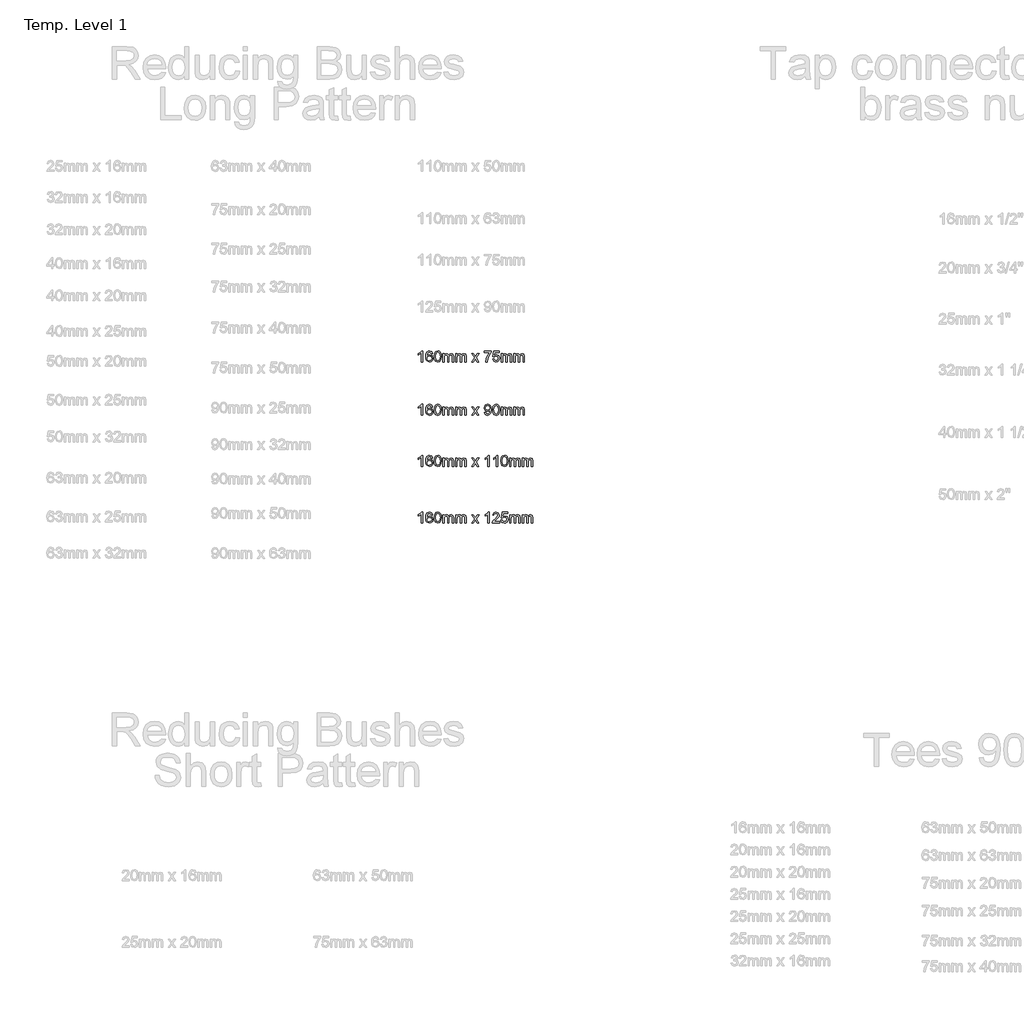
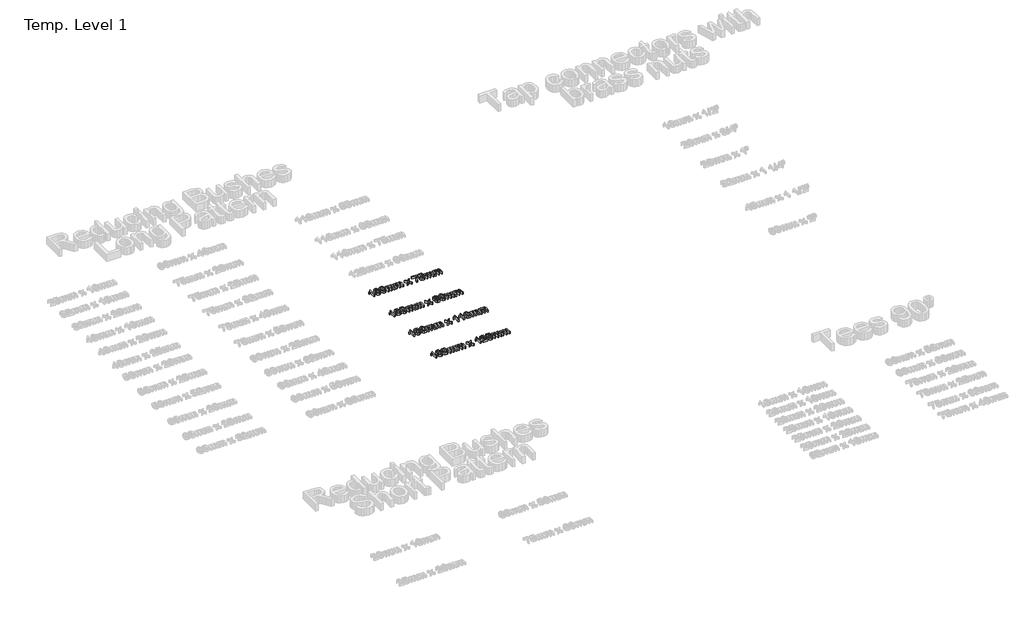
# One storey, part 46 of 62: 4 proxies.
"""IFC4 building model written with IfcOpenShell, lengths in millimetres."""

from ifc_helpers import new_model, si_unit, origin, origin_with_axes, place, context, project, spatial, polyline, outline, extrude, element, save

model = new_model("IFC4")

# Units and contexts
model_context = context("Model", 3, world=origin())
ifc_project = project(units=[si_unit("LENGTHUNIT", "METRE", prefix="MILLI")], contexts=[model_context])

# Site, building, storey
site = spatial("IfcSite", under=ifc_project)
building = spatial("IfcBuilding", under=site)
storey = spatial("IfcBuildingStorey", under=building, Name="Temp. Level 1", Elevation=0.0)

# Proxies
placement = place(None, origin())
element("IfcBuildingElementProxy", 1, Name="50mm Arial", ObjectType="50mm Arial", at=placement, inside=storey, context=model_context, shape_type="SweptSolid", body=[
    extrude(outline(polyline([(25028.6101109, -5250.5242041), (25022.4562647, -5250.5242041), (25022.4562647, -5212.1588195), (25016.6269378, -5216.3114637), (25010.1485724, -5219.4184349), (25010.1485724, -5213.6011272), (25019.1690051, -5207.8439157), (25024.6437647, -5201.2934349), (25028.6101109, -5201.2934349), (25028.6101109, -5250.5242041)])), origin_with_axes(), (0.0, 0.0, 1.0), 15.0),
    extrude(outline(polyline([(25074.763957, -5214.370358), (25068.6101109, -5215.1395887), (25066.2783801, -5210.0073772), (25060.1125147, -5207.447281), (25054.5596301, -5208.9376657), (25050.3589089, -5214.5326176), (25048.6101109, -5225.5001657), (25054.0367935, -5220.5903099), (25060.7615532, -5218.9857426), (25071.2182839, -5223.3727618), (25075.5331878, -5234.7068964), (25073.5019378, -5243.198483), (25067.9129955, -5249.2080983), (25059.8480916, -5251.2934349), (25047.3060243, -5245.7645887), (25043.6687046, -5238.4448772), (25042.4562647, -5227.5434349), (25043.8024185, -5215.2868243), (25047.8408801, -5206.9064157), (25053.3547022, -5202.6966801), (25060.4971301, -5201.2934349), (25070.2206878, -5204.7669926), (25074.763957, -5214.370358)]), holes=[polyline([(25048.6101109, -5234.6107426), (25050.0343897, -5239.9412714), (25053.8204474, -5243.8114637), (25059.3673224, -5245.1395887), (25066.6209282, -5242.3871849), (25069.3793416, -5234.9112233), (25066.6569859, -5227.7537714), (25059.1149185, -5225.1395887), (25051.6690051, -5227.7537714), (25048.6101109, -5234.6107426)])]), origin_with_axes(), (0.0, 0.0, 1.0), 15.0),
    extrude(outline(polyline([(25080.9178032, -5226.3054541), (25082.7266974, -5212.1407907), (25088.0992935, -5203.9737233), (25097.0716493, -5201.2934349), (25104.2591493, -5202.8799733), (25109.2230916, -5207.4532907), (25112.107707, -5214.7369445), (25113.2254955, -5226.3054541), (25111.4346301, -5240.4100214), (25106.0800628, -5248.5951176), (25097.0716493, -5251.2934349), (25085.8216493, -5246.6059349), (25082.1437647, -5238.2796128), (25080.9178032, -5226.3054541)]), holes=[polyline([(25087.0716493, -5226.2934349), (25089.9562647, -5241.5758868), (25097.0716493, -5245.1395887), (25104.1870339, -5241.5638676), (25107.0716493, -5226.2934349), (25104.2831878, -5211.1852618), (25096.9995339, -5207.447281), (25090.0524185, -5210.7405503), (25087.0716493, -5226.2934349)])]), origin_with_axes(), (0.0, 0.0, 1.0), 15.0),
    extrude(outline(polyline([(25120.1485724, -5250.5242041), (25120.1485724, -5214.370358), (25126.3024185, -5214.370358), (25126.3024185, -5220.3198772), (25130.5331878, -5215.4460791), (25136.5548224, -5213.6011272), (25142.7206878, -5215.4821368), (25146.1101109, -5220.7525695), (25150.9117935, -5215.3889878), (25156.9754955, -5213.6011272), (25165.0223705, -5216.5758868), (25167.8408801, -5225.7405503), (25167.8408801, -5250.5242041), (25161.6870339, -5250.5242041), (25161.6870339, -5228.384781), (25161.1161205, -5223.2465599), (25159.0488128, -5220.7165118), (25155.5331878, -5219.7549733), (25149.4815051, -5222.2189157), (25147.0716493, -5230.1155503), (25147.0716493, -5250.5242041), (25140.9178032, -5250.5242041), (25140.9178032, -5227.6996849), (25139.4935243, -5221.7381464), (25134.8240532, -5219.7549733), (25130.2687647, -5221.0770887), (25127.2399185, -5224.947281), (25126.3024185, -5232.291031), (25126.3024185, -5250.5242041), (25120.1485724, -5250.5242041)])), origin_with_axes(), (0.0, 0.0, 1.0), 15.0),
    extrude(outline(polyline([(25177.0716493, -5250.5242041), (25177.0716493, -5214.370358), (25183.2254955, -5214.370358), (25183.2254955, -5220.3198772), (25187.4562647, -5215.4460791), (25193.4778993, -5213.6011272), (25199.6437647, -5215.4821368), (25203.0331878, -5220.7525695), (25207.8348705, -5215.3889878), (25213.8985724, -5213.6011272), (25221.9454474, -5216.5758868), (25224.763957, -5225.7405503), (25224.763957, -5250.5242041), (25218.6101109, -5250.5242041), (25218.6101109, -5228.384781), (25218.0391974, -5223.2465599), (25215.9718897, -5220.7165118), (25212.4562647, -5219.7549733), (25206.404582, -5222.2189157), (25203.9947262, -5230.1155503), (25203.9947262, -5250.5242041), (25197.8408801, -5250.5242041), (25197.8408801, -5227.6996849), (25196.4166012, -5221.7381464), (25191.7471301, -5219.7549733), (25187.1918416, -5221.0770887), (25184.1629955, -5224.947281), (25183.2254955, -5232.291031), (25183.2254955, -5250.5242041), (25177.0716493, -5250.5242041)])), origin_with_axes(), (0.0, 0.0, 1.0), 15.0),
    extrude(outline(polyline([(25249.3793416, -5250.5242041), (25262.5283801, -5232.3511272), (25250.1485724, -5214.370358), (25257.5524185, -5214.370358), (25263.5259762, -5223.0242041), (25266.3144378, -5227.1107426), (25268.7303032, -5223.7693964), (25275.5331878, -5214.370358), (25282.9370339, -5214.370358), (25269.9322262, -5232.3511272), (25282.4562647, -5250.5242041), (25275.0524185, -5250.5242041), (25267.5163609, -5239.5987233), (25266.1341493, -5237.603531), (25256.7831878, -5250.5242041), (25249.3793416, -5250.5242041)])), origin_with_axes(), (0.0, 0.0, 1.0), 15.0),
    extrude(outline(polyline([(25305.5331878, -5208.2165118), (25305.5331878, -5202.0626657), (25337.8408801, -5202.0626657), (25337.8408801, -5207.0386272), (25328.6762166, -5220.2778099), (25321.6629955, -5237.1468003), (25319.3793416, -5250.5242041), (25313.2254955, -5250.5242041), (25315.6714089, -5236.6419926), (25322.3841493, -5220.9508868), (25331.6870339, -5208.2165118), (25305.5331878, -5208.2165118)])), origin_with_axes(), (0.0, 0.0, 1.0), 15.0),
    extrude(outline(polyline([(25343.2254955, -5237.447281), (25349.3793416, -5236.6780503), (25352.4803032, -5243.0181945), (25358.9105916, -5245.1395887), (25366.6269378, -5242.1888676), (25369.3793416, -5234.3583387), (25366.8012166, -5227.0506464), (25359.0067455, -5224.370358), (25353.6041012, -5225.4400695), (25350.1485724, -5228.2165118), (25343.9947262, -5227.447281), (25349.3793416, -5202.0626657), (25373.2254955, -5202.0626657), (25373.2254955, -5208.2165118), (25354.3553032, -5208.2165118), (25351.7230916, -5221.7742041), (25360.7254955, -5218.2165118), (25371.248332, -5222.6275695), (25375.5331878, -5233.9737233), (25371.6750147, -5245.3919926), (25366.1341493, -5249.8180743), (25358.8865532, -5251.2934349), (25348.0271782, -5247.5013676), (25343.2254955, -5237.447281)])), origin_with_axes(), (0.0, 0.0, 1.0), 15.0),
    extrude(outline(polyline([(25382.4562647, -5250.5242041), (25382.4562647, -5214.370358), (25388.6101109, -5214.370358), (25388.6101109, -5220.3198772), (25392.8408801, -5215.4460791), (25398.8625147, -5213.6011272), (25405.0283801, -5215.4821368), (25408.4178032, -5220.7525695), (25413.2194859, -5215.3889878), (25419.2831878, -5213.6011272), (25427.3300628, -5216.5758868), (25430.1485724, -5225.7405503), (25430.1485724, -5250.5242041), (25423.9947262, -5250.5242041), (25423.9947262, -5228.384781), (25423.4238128, -5223.2465599), (25421.3565051, -5220.7165118), (25417.8408801, -5219.7549733), (25411.7891974, -5222.2189157), (25409.3793416, -5230.1155503), (25409.3793416, -5250.5242041), (25403.2254955, -5250.5242041), (25403.2254955, -5227.6996849), (25401.8012166, -5221.7381464), (25397.1317455, -5219.7549733), (25392.576457, -5221.0770887), (25389.5476109, -5224.947281), (25388.6101109, -5232.291031), (25388.6101109, -5250.5242041), (25382.4562647, -5250.5242041)])), origin_with_axes(), (0.0, 0.0, 1.0), 15.0),
    extrude(outline(polyline([(25439.3793416, -5250.5242041), (25439.3793416, -5214.370358), (25445.5331878, -5214.370358), (25445.5331878, -5220.3198772), (25449.763957, -5215.4460791), (25455.7855916, -5213.6011272), (25461.951457, -5215.4821368), (25465.3408801, -5220.7525695), (25470.1425628, -5215.3889878), (25476.2062647, -5213.6011272), (25484.2531397, -5216.5758868), (25487.0716493, -5225.7405503), (25487.0716493, -5250.5242041), (25480.9178032, -5250.5242041), (25480.9178032, -5228.384781), (25480.3468897, -5223.2465599), (25478.279582, -5220.7165118), (25474.763957, -5219.7549733), (25468.7122743, -5222.2189157), (25466.3024185, -5230.1155503), (25466.3024185, -5250.5242041), (25460.1485724, -5250.5242041), (25460.1485724, -5227.6996849), (25458.7242935, -5221.7381464), (25454.0548224, -5219.7549733), (25449.4995339, -5221.0770887), (25446.4706878, -5224.947281), (25445.5331878, -5232.291031), (25445.5331878, -5250.5242041), (25439.3793416, -5250.5242041)])), origin_with_axes(), (0.0, 0.0, 1.0), 15.0),
])
element("IfcBuildingElementProxy", 2, Name="50mm Arial", ObjectType="50mm Arial", at=placement, inside=storey, context=model_context, shape_type="SweptSolid", body=[
    extrude(outline(polyline([(25028.6101109, -5490.5242041), (25022.4562647, -5490.5242041), (25022.4562647, -5452.1588195), (25016.6269378, -5456.3114637), (25010.1485724, -5459.4184349), (25010.1485724, -5453.6011272), (25019.1690051, -5447.8439157), (25024.6437647, -5441.2934349), (25028.6101109, -5441.2934349), (25028.6101109, -5490.5242041)])), origin_with_axes(), (0.0, 0.0, 1.0), 15.0),
    extrude(outline(polyline([(25074.763957, -5454.370358), (25068.6101109, -5455.1395887), (25066.2783801, -5450.0073772), (25060.1125147, -5447.447281), (25054.5596301, -5448.9376657), (25050.3589089, -5454.5326176), (25048.6101109, -5465.5001657), (25054.0367935, -5460.5903099), (25060.7615532, -5458.9857426), (25071.2182839, -5463.3727618), (25075.5331878, -5474.7068964), (25073.5019378, -5483.198483), (25067.9129955, -5489.2080983), (25059.8480916, -5491.2934349), (25047.3060243, -5485.7645887), (25043.6687046, -5478.4448772), (25042.4562647, -5467.5434349), (25043.8024185, -5455.2868243), (25047.8408801, -5446.9064157), (25053.3547022, -5442.6966801), (25060.4971301, -5441.2934349), (25070.2206878, -5444.7669926), (25074.763957, -5454.370358)]), holes=[polyline([(25048.6101109, -5474.6107426), (25050.0343897, -5479.9412714), (25053.8204474, -5483.8114637), (25059.3673224, -5485.1395887), (25066.6209282, -5482.3871849), (25069.3793416, -5474.9112233), (25066.6569859, -5467.7537714), (25059.1149185, -5465.1395887), (25051.6690051, -5467.7537714), (25048.6101109, -5474.6107426)])]), origin_with_axes(), (0.0, 0.0, 1.0), 15.0),
    extrude(outline(polyline([(25080.9178032, -5466.3054541), (25082.7266974, -5452.1407907), (25088.0992935, -5443.9737233), (25097.0716493, -5441.2934349), (25104.2591493, -5442.8799733), (25109.2230916, -5447.4532907), (25112.107707, -5454.7369445), (25113.2254955, -5466.3054541), (25111.4346301, -5480.4100214), (25106.0800628, -5488.5951176), (25097.0716493, -5491.2934349), (25085.8216493, -5486.6059349), (25082.1437647, -5478.2796128), (25080.9178032, -5466.3054541)]), holes=[polyline([(25087.0716493, -5466.2934349), (25089.9562647, -5481.5758868), (25097.0716493, -5485.1395887), (25104.1870339, -5481.5638676), (25107.0716493, -5466.2934349), (25104.2831878, -5451.1852618), (25096.9995339, -5447.447281), (25090.0524185, -5450.7405503), (25087.0716493, -5466.2934349)])]), origin_with_axes(), (0.0, 0.0, 1.0), 15.0),
    extrude(outline(polyline([(25120.1485724, -5490.5242041), (25120.1485724, -5454.370358), (25126.3024185, -5454.370358), (25126.3024185, -5460.3198772), (25130.5331878, -5455.4460791), (25136.5548224, -5453.6011272), (25142.7206878, -5455.4821368), (25146.1101109, -5460.7525695), (25150.9117935, -5455.3889878), (25156.9754955, -5453.6011272), (25165.0223705, -5456.5758868), (25167.8408801, -5465.7405503), (25167.8408801, -5490.5242041), (25161.6870339, -5490.5242041), (25161.6870339, -5468.384781), (25161.1161205, -5463.2465599), (25159.0488128, -5460.7165118), (25155.5331878, -5459.7549733), (25149.4815051, -5462.2189157), (25147.0716493, -5470.1155503), (25147.0716493, -5490.5242041), (25140.9178032, -5490.5242041), (25140.9178032, -5467.6996849), (25139.4935243, -5461.7381464), (25134.8240532, -5459.7549733), (25130.2687647, -5461.0770887), (25127.2399185, -5464.947281), (25126.3024185, -5472.291031), (25126.3024185, -5490.5242041), (25120.1485724, -5490.5242041)])), origin_with_axes(), (0.0, 0.0, 1.0), 15.0),
    extrude(outline(polyline([(25177.0716493, -5490.5242041), (25177.0716493, -5454.370358), (25183.2254955, -5454.370358), (25183.2254955, -5460.3198772), (25187.4562647, -5455.4460791), (25193.4778993, -5453.6011272), (25199.6437647, -5455.4821368), (25203.0331878, -5460.7525695), (25207.8348705, -5455.3889878), (25213.8985724, -5453.6011272), (25221.9454474, -5456.5758868), (25224.763957, -5465.7405503), (25224.763957, -5490.5242041), (25218.6101109, -5490.5242041), (25218.6101109, -5468.384781), (25218.0391974, -5463.2465599), (25215.9718897, -5460.7165118), (25212.4562647, -5459.7549733), (25206.404582, -5462.2189157), (25203.9947262, -5470.1155503), (25203.9947262, -5490.5242041), (25197.8408801, -5490.5242041), (25197.8408801, -5467.6996849), (25196.4166012, -5461.7381464), (25191.7471301, -5459.7549733), (25187.1918416, -5461.0770887), (25184.1629955, -5464.947281), (25183.2254955, -5472.291031), (25183.2254955, -5490.5242041), (25177.0716493, -5490.5242041)])), origin_with_axes(), (0.0, 0.0, 1.0), 15.0),
    extrude(outline(polyline([(25249.3793416, -5490.5242041), (25262.5283801, -5472.3511272), (25250.1485724, -5454.370358), (25257.5524185, -5454.370358), (25263.5259762, -5463.0242041), (25266.3144378, -5467.1107426), (25268.7303032, -5463.7693964), (25275.5331878, -5454.370358), (25282.9370339, -5454.370358), (25269.9322262, -5472.3511272), (25282.4562647, -5490.5242041), (25275.0524185, -5490.5242041), (25267.5163609, -5479.5987233), (25266.1341493, -5477.603531), (25256.7831878, -5490.5242041), (25249.3793416, -5490.5242041)])), origin_with_axes(), (0.0, 0.0, 1.0), 15.0),
    extrude(outline(polyline([(25306.3024185, -5478.2165118), (25312.4562647, -5477.447281), (25315.2206878, -5483.3186753), (25320.4610724, -5485.1395887), (25325.4430435, -5483.9677137), (25328.8204474, -5480.8367041), (25330.8336685, -5475.4881464), (25331.7230916, -5468.3487233), (25326.7651589, -5471.8102618), (25320.0163609, -5473.6011272), (25309.7339089, -5469.2261272), (25305.5331878, -5457.6996849), (25309.9382359, -5445.8006464), (25320.9778993, -5441.2934349), (25329.7459282, -5443.8655503), (25335.779582, -5451.197281), (25337.8408801, -5464.9713195), (25335.7855916, -5479.917233), (25329.6738128, -5488.384781), (25320.1726109, -5491.2934349), (25310.7134762, -5487.8619445), (25306.3024185, -5478.2165118)]), holes=[polyline([(25331.6870339, -5457.5554541), (25329.0307839, -5450.1756464), (25321.9754955, -5447.447281), (25314.5716493, -5450.385983), (25311.6870339, -5458.0001657), (25314.4153993, -5464.8210791), (25321.8072262, -5467.447281), (25328.904582, -5464.8210791), (25331.6870339, -5457.5554541)])]), origin_with_axes(), (0.0, 0.0, 1.0), 15.0),
    extrude(outline(polyline([(25343.2254955, -5466.3054541), (25345.0343897, -5452.1407907), (25350.4069859, -5443.9737233), (25359.3793416, -5441.2934349), (25366.5668416, -5442.8799733), (25371.5307839, -5447.4532907), (25374.4153993, -5454.7369445), (25375.5331878, -5466.3054541), (25373.7423224, -5480.4100214), (25368.3877551, -5488.5951176), (25359.3793416, -5491.2934349), (25348.1293416, -5486.6059349), (25344.451457, -5478.2796128), (25343.2254955, -5466.3054541)]), holes=[polyline([(25349.3793416, -5466.2934349), (25352.263957, -5481.5758868), (25359.3793416, -5485.1395887), (25366.4947262, -5481.5638676), (25369.3793416, -5466.2934349), (25366.5908801, -5451.1852618), (25359.3072262, -5447.447281), (25352.3601109, -5450.7405503), (25349.3793416, -5466.2934349)])]), origin_with_axes(), (0.0, 0.0, 1.0), 15.0),
    extrude(outline(polyline([(25382.4562647, -5490.5242041), (25382.4562647, -5454.370358), (25388.6101109, -5454.370358), (25388.6101109, -5460.3198772), (25392.8408801, -5455.4460791), (25398.8625147, -5453.6011272), (25405.0283801, -5455.4821368), (25408.4178032, -5460.7525695), (25413.2194859, -5455.3889878), (25419.2831878, -5453.6011272), (25427.3300628, -5456.5758868), (25430.1485724, -5465.7405503), (25430.1485724, -5490.5242041), (25423.9947262, -5490.5242041), (25423.9947262, -5468.384781), (25423.4238128, -5463.2465599), (25421.3565051, -5460.7165118), (25417.8408801, -5459.7549733), (25411.7891974, -5462.2189157), (25409.3793416, -5470.1155503), (25409.3793416, -5490.5242041), (25403.2254955, -5490.5242041), (25403.2254955, -5467.6996849), (25401.8012166, -5461.7381464), (25397.1317455, -5459.7549733), (25392.576457, -5461.0770887), (25389.5476109, -5464.947281), (25388.6101109, -5472.291031), (25388.6101109, -5490.5242041), (25382.4562647, -5490.5242041)])), origin_with_axes(), (0.0, 0.0, 1.0), 15.0),
    extrude(outline(polyline([(25439.3793416, -5490.5242041), (25439.3793416, -5454.370358), (25445.5331878, -5454.370358), (25445.5331878, -5460.3198772), (25449.763957, -5455.4460791), (25455.7855916, -5453.6011272), (25461.951457, -5455.4821368), (25465.3408801, -5460.7525695), (25470.1425628, -5455.3889878), (25476.2062647, -5453.6011272), (25484.2531397, -5456.5758868), (25487.0716493, -5465.7405503), (25487.0716493, -5490.5242041), (25480.9178032, -5490.5242041), (25480.9178032, -5468.384781), (25480.3468897, -5463.2465599), (25478.279582, -5460.7165118), (25474.763957, -5459.7549733), (25468.7122743, -5462.2189157), (25466.3024185, -5470.1155503), (25466.3024185, -5490.5242041), (25460.1485724, -5490.5242041), (25460.1485724, -5467.6996849), (25458.7242935, -5461.7381464), (25454.0548224, -5459.7549733), (25449.4995339, -5461.0770887), (25446.4706878, -5464.947281), (25445.5331878, -5472.291031), (25445.5331878, -5490.5242041), (25439.3793416, -5490.5242041)])), origin_with_axes(), (0.0, 0.0, 1.0), 15.0),
])
element("IfcBuildingElementProxy", 3, Name="50mm Arial", ObjectType="50mm Arial", at=placement, inside=storey, context=model_context, shape_type="SweptSolid", body=[
    extrude(outline(polyline([(25028.6101109, -5720.5242041), (25022.4562647, -5720.5242041), (25022.4562647, -5682.1588195), (25016.6269378, -5686.3114637), (25010.1485724, -5689.4184349), (25010.1485724, -5683.6011272), (25019.1690051, -5677.8439157), (25024.6437647, -5671.2934349), (25028.6101109, -5671.2934349), (25028.6101109, -5720.5242041)])), origin_with_axes(), (0.0, 0.0, 1.0), 15.0),
    extrude(outline(polyline([(25074.763957, -5684.370358), (25068.6101109, -5685.1395887), (25066.2783801, -5680.0073772), (25060.1125147, -5677.447281), (25054.5596301, -5678.9376657), (25050.3589089, -5684.5326176), (25048.6101109, -5695.5001657), (25054.0367935, -5690.5903099), (25060.7615532, -5688.9857426), (25071.2182839, -5693.3727618), (25075.5331878, -5704.7068964), (25073.5019378, -5713.198483), (25067.9129955, -5719.2080983), (25059.8480916, -5721.2934349), (25047.3060243, -5715.7645887), (25043.6687046, -5708.4448772), (25042.4562647, -5697.5434349), (25043.8024185, -5685.2868243), (25047.8408801, -5676.9064157), (25053.3547022, -5672.6966801), (25060.4971301, -5671.2934349), (25070.2206878, -5674.7669926), (25074.763957, -5684.370358)]), holes=[polyline([(25048.6101109, -5704.6107426), (25050.0343897, -5709.9412714), (25053.8204474, -5713.8114637), (25059.3673224, -5715.1395887), (25066.6209282, -5712.3871849), (25069.3793416, -5704.9112233), (25066.6569859, -5697.7537714), (25059.1149185, -5695.1395887), (25051.6690051, -5697.7537714), (25048.6101109, -5704.6107426)])]), origin_with_axes(), (0.0, 0.0, 1.0), 15.0),
    extrude(outline(polyline([(25080.9178032, -5696.3054541), (25082.7266974, -5682.1407907), (25088.0992935, -5673.9737233), (25097.0716493, -5671.2934349), (25104.2591493, -5672.8799733), (25109.2230916, -5677.4532907), (25112.107707, -5684.7369445), (25113.2254955, -5696.3054541), (25111.4346301, -5710.4100214), (25106.0800628, -5718.5951176), (25097.0716493, -5721.2934349), (25085.8216493, -5716.6059349), (25082.1437647, -5708.2796128), (25080.9178032, -5696.3054541)]), holes=[polyline([(25087.0716493, -5696.2934349), (25089.9562647, -5711.5758868), (25097.0716493, -5715.1395887), (25104.1870339, -5711.5638676), (25107.0716493, -5696.2934349), (25104.2831878, -5681.1852618), (25096.9995339, -5677.447281), (25090.0524185, -5680.7405503), (25087.0716493, -5696.2934349)])]), origin_with_axes(), (0.0, 0.0, 1.0), 15.0),
    extrude(outline(polyline([(25120.1485724, -5720.5242041), (25120.1485724, -5684.370358), (25126.3024185, -5684.370358), (25126.3024185, -5690.3198772), (25130.5331878, -5685.4460791), (25136.5548224, -5683.6011272), (25142.7206878, -5685.4821368), (25146.1101109, -5690.7525695), (25150.9117935, -5685.3889878), (25156.9754955, -5683.6011272), (25165.0223705, -5686.5758868), (25167.8408801, -5695.7405503), (25167.8408801, -5720.5242041), (25161.6870339, -5720.5242041), (25161.6870339, -5698.384781), (25161.1161205, -5693.2465599), (25159.0488128, -5690.7165118), (25155.5331878, -5689.7549733), (25149.4815051, -5692.2189157), (25147.0716493, -5700.1155503), (25147.0716493, -5720.5242041), (25140.9178032, -5720.5242041), (25140.9178032, -5697.6996849), (25139.4935243, -5691.7381464), (25134.8240532, -5689.7549733), (25130.2687647, -5691.0770887), (25127.2399185, -5694.947281), (25126.3024185, -5702.291031), (25126.3024185, -5720.5242041), (25120.1485724, -5720.5242041)])), origin_with_axes(), (0.0, 0.0, 1.0), 15.0),
    extrude(outline(polyline([(25177.0716493, -5720.5242041), (25177.0716493, -5684.370358), (25183.2254955, -5684.370358), (25183.2254955, -5690.3198772), (25187.4562647, -5685.4460791), (25193.4778993, -5683.6011272), (25199.6437647, -5685.4821368), (25203.0331878, -5690.7525695), (25207.8348705, -5685.3889878), (25213.8985724, -5683.6011272), (25221.9454474, -5686.5758868), (25224.763957, -5695.7405503), (25224.763957, -5720.5242041), (25218.6101109, -5720.5242041), (25218.6101109, -5698.384781), (25218.0391974, -5693.2465599), (25215.9718897, -5690.7165118), (25212.4562647, -5689.7549733), (25206.404582, -5692.2189157), (25203.9947262, -5700.1155503), (25203.9947262, -5720.5242041), (25197.8408801, -5720.5242041), (25197.8408801, -5697.6996849), (25196.4166012, -5691.7381464), (25191.7471301, -5689.7549733), (25187.1918416, -5691.0770887), (25184.1629955, -5694.947281), (25183.2254955, -5702.291031), (25183.2254955, -5720.5242041), (25177.0716493, -5720.5242041)])), origin_with_axes(), (0.0, 0.0, 1.0), 15.0),
    extrude(outline(polyline([(25249.3793416, -5720.5242041), (25262.5283801, -5702.3511272), (25250.1485724, -5684.370358), (25257.5524185, -5684.370358), (25263.5259762, -5693.0242041), (25266.3144378, -5697.1107426), (25268.7303032, -5693.7693964), (25275.5331878, -5684.370358), (25282.9370339, -5684.370358), (25269.9322262, -5702.3511272), (25282.4562647, -5720.5242041), (25275.0524185, -5720.5242041), (25267.5163609, -5709.5987233), (25266.1341493, -5707.603531), (25256.7831878, -5720.5242041), (25249.3793416, -5720.5242041)])), origin_with_axes(), (0.0, 0.0, 1.0), 15.0),
    extrude(outline(polyline([(25328.6101109, -5720.5242041), (25322.4562647, -5720.5242041), (25322.4562647, -5682.1588195), (25316.6269378, -5686.3114637), (25310.1485724, -5689.4184349), (25310.1485724, -5683.6011272), (25319.1690051, -5677.8439157), (25324.6437647, -5671.2934349), (25328.6101109, -5671.2934349), (25328.6101109, -5720.5242041)])), origin_with_axes(), (0.0, 0.0, 1.0), 15.0),
    extrude(outline(polyline([(25366.3024185, -5720.5242041), (25360.1485724, -5720.5242041), (25360.1485724, -5682.1588195), (25354.3192455, -5686.3114637), (25347.8408801, -5689.4184349), (25347.8408801, -5683.6011272), (25356.8613128, -5677.8439157), (25362.3360724, -5671.2934349), (25366.3024185, -5671.2934349), (25366.3024185, -5720.5242041)])), origin_with_axes(), (0.0, 0.0, 1.0), 15.0),
    extrude(outline(polyline([(25380.9178032, -5696.3054541), (25382.7266974, -5682.1407907), (25388.0992935, -5673.9737233), (25397.0716493, -5671.2934349), (25404.2591493, -5672.8799733), (25409.2230916, -5677.4532907), (25412.107707, -5684.7369445), (25413.2254955, -5696.3054541), (25411.4346301, -5710.4100214), (25406.0800628, -5718.5951176), (25397.0716493, -5721.2934349), (25385.8216493, -5716.6059349), (25382.1437647, -5708.2796128), (25380.9178032, -5696.3054541)]), holes=[polyline([(25387.0716493, -5696.2934349), (25389.9562647, -5711.5758868), (25397.0716493, -5715.1395887), (25404.1870339, -5711.5638676), (25407.0716493, -5696.2934349), (25404.2831878, -5681.1852618), (25396.9995339, -5677.447281), (25390.0524185, -5680.7405503), (25387.0716493, -5696.2934349)])]), origin_with_axes(), (0.0, 0.0, 1.0), 15.0),
    extrude(outline(polyline([(25420.1485724, -5720.5242041), (25420.1485724, -5684.370358), (25426.3024185, -5684.370358), (25426.3024185, -5690.3198772), (25430.5331878, -5685.4460791), (25436.5548224, -5683.6011272), (25442.7206878, -5685.4821368), (25446.1101109, -5690.7525695), (25450.9117935, -5685.3889878), (25456.9754955, -5683.6011272), (25465.0223705, -5686.5758868), (25467.8408801, -5695.7405503), (25467.8408801, -5720.5242041), (25461.6870339, -5720.5242041), (25461.6870339, -5698.384781), (25461.1161205, -5693.2465599), (25459.0488128, -5690.7165118), (25455.5331878, -5689.7549733), (25449.4815051, -5692.2189157), (25447.0716493, -5700.1155503), (25447.0716493, -5720.5242041), (25440.9178032, -5720.5242041), (25440.9178032, -5697.6996849), (25439.4935243, -5691.7381464), (25434.8240532, -5689.7549733), (25430.2687647, -5691.0770887), (25427.2399185, -5694.947281), (25426.3024185, -5702.291031), (25426.3024185, -5720.5242041), (25420.1485724, -5720.5242041)])), origin_with_axes(), (0.0, 0.0, 1.0), 15.0),
    extrude(outline(polyline([(25477.0716493, -5720.5242041), (25477.0716493, -5684.370358), (25483.2254955, -5684.370358), (25483.2254955, -5690.3198772), (25487.4562647, -5685.4460791), (25493.4778993, -5683.6011272), (25499.6437647, -5685.4821368), (25503.0331878, -5690.7525695), (25507.8348705, -5685.3889878), (25513.8985724, -5683.6011272), (25521.9454474, -5686.5758868), (25524.763957, -5695.7405503), (25524.763957, -5720.5242041), (25518.6101109, -5720.5242041), (25518.6101109, -5698.384781), (25518.0391974, -5693.2465599), (25515.9718897, -5690.7165118), (25512.4562647, -5689.7549733), (25506.404582, -5692.2189157), (25503.9947262, -5700.1155503), (25503.9947262, -5720.5242041), (25497.8408801, -5720.5242041), (25497.8408801, -5697.6996849), (25496.4166012, -5691.7381464), (25491.7471301, -5689.7549733), (25487.1918416, -5691.0770887), (25484.1629955, -5694.947281), (25483.2254955, -5702.291031), (25483.2254955, -5720.5242041), (25477.0716493, -5720.5242041)])), origin_with_axes(), (0.0, 0.0, 1.0), 15.0),
])
element("IfcBuildingElementProxy", 4, Name="50mm Arial", ObjectType="50mm Arial", at=placement, inside=storey, context=model_context, shape_type="SweptSolid", body=[
    extrude(outline(polyline([(25028.6101109, -5975.5242041), (25022.4562647, -5975.5242041), (25022.4562647, -5937.1588195), (25016.6269378, -5941.3114637), (25010.1485724, -5944.4184349), (25010.1485724, -5938.6011272), (25019.1690051, -5932.8439157), (25024.6437647, -5926.2934349), (25028.6101109, -5926.2934349), (25028.6101109, -5975.5242041)])), origin_with_axes(), (0.0, 0.0, 1.0), 15.0),
    extrude(outline(polyline([(25074.763957, -5939.370358), (25068.6101109, -5940.1395887), (25066.2783801, -5935.0073772), (25060.1125147, -5932.447281), (25054.5596301, -5933.9376657), (25050.3589089, -5939.5326176), (25048.6101109, -5950.5001657), (25054.0367935, -5945.5903099), (25060.7615532, -5943.9857426), (25071.2182839, -5948.3727618), (25075.5331878, -5959.7068964), (25073.5019378, -5968.198483), (25067.9129955, -5974.2080983), (25059.8480916, -5976.2934349), (25047.3060243, -5970.7645887), (25043.6687046, -5963.4448772), (25042.4562647, -5952.5434349), (25043.8024185, -5940.2868243), (25047.8408801, -5931.9064157), (25053.3547022, -5927.6966801), (25060.4971301, -5926.2934349), (25070.2206878, -5929.7669926), (25074.763957, -5939.370358)]), holes=[polyline([(25048.6101109, -5959.6107426), (25050.0343897, -5964.9412714), (25053.8204474, -5968.8114637), (25059.3673224, -5970.1395887), (25066.6209282, -5967.3871849), (25069.3793416, -5959.9112233), (25066.6569859, -5952.7537714), (25059.1149185, -5950.1395887), (25051.6690051, -5952.7537714), (25048.6101109, -5959.6107426)])]), origin_with_axes(), (0.0, 0.0, 1.0), 15.0),
    extrude(outline(polyline([(25080.9178032, -5951.3054541), (25082.7266974, -5937.1407907), (25088.0992935, -5928.9737233), (25097.0716493, -5926.2934349), (25104.2591493, -5927.8799733), (25109.2230916, -5932.4532907), (25112.107707, -5939.7369445), (25113.2254955, -5951.3054541), (25111.4346301, -5965.4100214), (25106.0800628, -5973.5951176), (25097.0716493, -5976.2934349), (25085.8216493, -5971.6059349), (25082.1437647, -5963.2796128), (25080.9178032, -5951.3054541)]), holes=[polyline([(25087.0716493, -5951.2934349), (25089.9562647, -5966.5758868), (25097.0716493, -5970.1395887), (25104.1870339, -5966.5638676), (25107.0716493, -5951.2934349), (25104.2831878, -5936.1852618), (25096.9995339, -5932.447281), (25090.0524185, -5935.7405503), (25087.0716493, -5951.2934349)])]), origin_with_axes(), (0.0, 0.0, 1.0), 15.0),
    extrude(outline(polyline([(25120.1485724, -5975.5242041), (25120.1485724, -5939.370358), (25126.3024185, -5939.370358), (25126.3024185, -5945.3198772), (25130.5331878, -5940.4460791), (25136.5548224, -5938.6011272), (25142.7206878, -5940.4821368), (25146.1101109, -5945.7525695), (25150.9117935, -5940.3889878), (25156.9754955, -5938.6011272), (25165.0223705, -5941.5758868), (25167.8408801, -5950.7405503), (25167.8408801, -5975.5242041), (25161.6870339, -5975.5242041), (25161.6870339, -5953.384781), (25161.1161205, -5948.2465599), (25159.0488128, -5945.7165118), (25155.5331878, -5944.7549733), (25149.4815051, -5947.2189157), (25147.0716493, -5955.1155503), (25147.0716493, -5975.5242041), (25140.9178032, -5975.5242041), (25140.9178032, -5952.6996849), (25139.4935243, -5946.7381464), (25134.8240532, -5944.7549733), (25130.2687647, -5946.0770887), (25127.2399185, -5949.947281), (25126.3024185, -5957.291031), (25126.3024185, -5975.5242041), (25120.1485724, -5975.5242041)])), origin_with_axes(), (0.0, 0.0, 1.0), 15.0),
    extrude(outline(polyline([(25177.0716493, -5975.5242041), (25177.0716493, -5939.370358), (25183.2254955, -5939.370358), (25183.2254955, -5945.3198772), (25187.4562647, -5940.4460791), (25193.4778993, -5938.6011272), (25199.6437647, -5940.4821368), (25203.0331878, -5945.7525695), (25207.8348705, -5940.3889878), (25213.8985724, -5938.6011272), (25221.9454474, -5941.5758868), (25224.763957, -5950.7405503), (25224.763957, -5975.5242041), (25218.6101109, -5975.5242041), (25218.6101109, -5953.384781), (25218.0391974, -5948.2465599), (25215.9718897, -5945.7165118), (25212.4562647, -5944.7549733), (25206.404582, -5947.2189157), (25203.9947262, -5955.1155503), (25203.9947262, -5975.5242041), (25197.8408801, -5975.5242041), (25197.8408801, -5952.6996849), (25196.4166012, -5946.7381464), (25191.7471301, -5944.7549733), (25187.1918416, -5946.0770887), (25184.1629955, -5949.947281), (25183.2254955, -5957.291031), (25183.2254955, -5975.5242041), (25177.0716493, -5975.5242041)])), origin_with_axes(), (0.0, 0.0, 1.0), 15.0),
    extrude(outline(polyline([(25249.3793416, -5975.5242041), (25262.5283801, -5957.3511272), (25250.1485724, -5939.370358), (25257.5524185, -5939.370358), (25263.5259762, -5948.0242041), (25266.3144378, -5952.1107426), (25268.7303032, -5948.7693964), (25275.5331878, -5939.370358), (25282.9370339, -5939.370358), (25269.9322262, -5957.3511272), (25282.4562647, -5975.5242041), (25275.0524185, -5975.5242041), (25267.5163609, -5964.5987233), (25266.1341493, -5962.603531), (25256.7831878, -5975.5242041), (25249.3793416, -5975.5242041)])), origin_with_axes(), (0.0, 0.0, 1.0), 15.0),
    extrude(outline(polyline([(25328.6101109, -5975.5242041), (25322.4562647, -5975.5242041), (25322.4562647, -5937.1588195), (25316.6269378, -5941.3114637), (25310.1485724, -5944.4184349), (25310.1485724, -5938.6011272), (25319.1690051, -5932.8439157), (25324.6437647, -5926.2934349), (25328.6101109, -5926.2934349), (25328.6101109, -5975.5242041)])), origin_with_axes(), (0.0, 0.0, 1.0), 15.0),
    extrude(outline(polyline([(25374.763957, -5969.370358), (25374.763957, -5975.5242041), (25342.4562647, -5975.5242041), (25343.1173224, -5971.2814157), (25346.8553032, -5964.7489637), (25354.5596301, -5957.6155503), (25365.1846301, -5947.3631464), (25367.8408801, -5940.3919926), (25365.3348705, -5934.7489637), (25358.7903993, -5932.447281), (25351.9694859, -5934.6948772), (25349.3793416, -5940.9088195), (25343.2254955, -5940.1395887), (25347.9430435, -5929.839108), (25358.9226109, -5926.2934349), (25369.9382359, -5930.2357426), (25373.9947262, -5940.0193964), (25372.9009762, -5945.854733), (25369.2651589, -5951.8883868), (25360.4490532, -5960.3198772), (25353.3697262, -5966.2393483), (25350.5932839, -5969.370358), (25374.763957, -5969.370358)])), origin_with_axes(), (0.0, 0.0, 1.0), 15.0),
    extrude(outline(polyline([(25380.9178032, -5962.447281), (25387.0716493, -5961.6780503), (25390.1726109, -5968.0181945), (25396.6028993, -5970.1395887), (25404.3192455, -5967.1888676), (25407.0716493, -5959.3583387), (25404.4935243, -5952.0506464), (25396.6990532, -5949.370358), (25391.2964089, -5950.4400695), (25387.8408801, -5953.2165118), (25381.6870339, -5952.447281), (25387.0716493, -5927.0626657), (25410.9178032, -5927.0626657), (25410.9178032, -5933.2165118), (25392.0476109, -5933.2165118), (25389.4153993, -5946.7742041), (25398.4178032, -5943.2165118), (25408.9406397, -5947.6275695), (25413.2254955, -5958.9737233), (25409.3673224, -5970.3919926), (25403.826457, -5974.8180743), (25396.5788609, -5976.2934349), (25385.7194859, -5972.5013676), (25380.9178032, -5962.447281)])), origin_with_axes(), (0.0, 0.0, 1.0), 15.0),
    extrude(outline(polyline([(25420.1485724, -5975.5242041), (25420.1485724, -5939.370358), (25426.3024185, -5939.370358), (25426.3024185, -5945.3198772), (25430.5331878, -5940.4460791), (25436.5548224, -5938.6011272), (25442.7206878, -5940.4821368), (25446.1101109, -5945.7525695), (25450.9117935, -5940.3889878), (25456.9754955, -5938.6011272), (25465.0223705, -5941.5758868), (25467.8408801, -5950.7405503), (25467.8408801, -5975.5242041), (25461.6870339, -5975.5242041), (25461.6870339, -5953.384781), (25461.1161205, -5948.2465599), (25459.0488128, -5945.7165118), (25455.5331878, -5944.7549733), (25449.4815051, -5947.2189157), (25447.0716493, -5955.1155503), (25447.0716493, -5975.5242041), (25440.9178032, -5975.5242041), (25440.9178032, -5952.6996849), (25439.4935243, -5946.7381464), (25434.8240532, -5944.7549733), (25430.2687647, -5946.0770887), (25427.2399185, -5949.947281), (25426.3024185, -5957.291031), (25426.3024185, -5975.5242041), (25420.1485724, -5975.5242041)])), origin_with_axes(), (0.0, 0.0, 1.0), 15.0),
    extrude(outline(polyline([(25477.0716493, -5975.5242041), (25477.0716493, -5939.370358), (25483.2254955, -5939.370358), (25483.2254955, -5945.3198772), (25487.4562647, -5940.4460791), (25493.4778993, -5938.6011272), (25499.6437647, -5940.4821368), (25503.0331878, -5945.7525695), (25507.8348705, -5940.3889878), (25513.8985724, -5938.6011272), (25521.9454474, -5941.5758868), (25524.763957, -5950.7405503), (25524.763957, -5975.5242041), (25518.6101109, -5975.5242041), (25518.6101109, -5953.384781), (25518.0391974, -5948.2465599), (25515.9718897, -5945.7165118), (25512.4562647, -5944.7549733), (25506.404582, -5947.2189157), (25503.9947262, -5955.1155503), (25503.9947262, -5975.5242041), (25497.8408801, -5975.5242041), (25497.8408801, -5952.6996849), (25496.4166012, -5946.7381464), (25491.7471301, -5944.7549733), (25487.1918416, -5946.0770887), (25484.1629955, -5949.947281), (25483.2254955, -5957.291031), (25483.2254955, -5975.5242041), (25477.0716493, -5975.5242041)])), origin_with_axes(), (0.0, 0.0, 1.0), 15.0),
])

save(model, "model.ifc")
